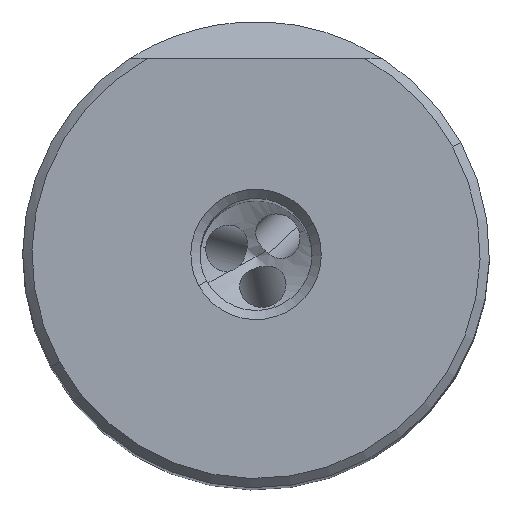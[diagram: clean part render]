
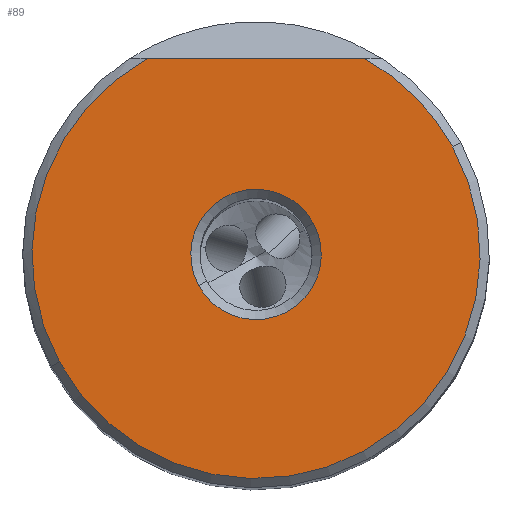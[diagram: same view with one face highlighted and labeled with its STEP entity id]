
A CAD part, top view. The second image highlights one B-rep face of the part: STEP entity #89.
In plain terms, the highlighted planar face has unit normal (0, 0, 1).
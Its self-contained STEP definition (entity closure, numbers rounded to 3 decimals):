
#35=AXIS2_PLACEMENT_3D('Plane Axis2P3D',#32,#33,#34) ;
#39=AXIS2_PLACEMENT_3D('Circle Axis2P3D',#37,#38,$) ;
#48=AXIS2_PLACEMENT_3D('Circle Axis2P3D',#46,#47,$) ;
#55=AXIS2_PLACEMENT_3D('Circle Axis2P3D',#53,#54,$) ;
#73=AXIS2_PLACEMENT_3D('Circle Axis2P3D',#71,#72,$) ;
#82=AXIS2_PLACEMENT_3D('Circle Axis2P3D',#80,#81,$) ;
#32=CARTESIAN_POINT('Axis2P3D Location',(-12.005,0.,0.)) ;
#37=CARTESIAN_POINT('Axis2P3D Location',(0.,0.,0.)) ;
#41=CARTESIAN_POINT('Vertex',(-5.82,10.5,0.)) ;
#43=CARTESIAN_POINT('Vertex',(-10.535,-5.756,0.)) ;
#46=CARTESIAN_POINT('Axis2P3D Location',(0.,0.,0.)) ;
#50=CARTESIAN_POINT('Vertex',(10.535,5.756,0.)) ;
#53=CARTESIAN_POINT('Axis2P3D Location',(0.,0.,0.)) ;
#57=CARTESIAN_POINT('Vertex',(5.82,10.5,0.)) ;
#60=CARTESIAN_POINT('Line Origine',(0.,10.5,0.)) ;
#71=CARTESIAN_POINT('Axis2P3D Location',(0.,0.,0.)) ;
#75=CARTESIAN_POINT('Vertex',(-3.067,-1.676,0.)) ;
#77=CARTESIAN_POINT('Vertex',(3.067,1.676,0.)) ;
#80=CARTESIAN_POINT('Axis2P3D Location',(0.,0.,0.)) ;
#33=DIRECTION('Axis2P3D Direction',(0.,0.,1.)) ;
#34=DIRECTION('Axis2P3D XDirection',(1.,0.,0.)) ;
#38=DIRECTION('Axis2P3D Direction',(0.,0.,1.)) ;
#47=DIRECTION('Axis2P3D Direction',(0.,0.,1.)) ;
#54=DIRECTION('Axis2P3D Direction',(0.,0.,1.)) ;
#61=DIRECTION('Vector Direction',(1.,0.,0.)) ;
#72=DIRECTION('Axis2P3D Direction',(0.,0.,1.)) ;
#81=DIRECTION('Axis2P3D Direction',(0.,0.,1.)) ;
#62=VECTOR('Line Direction',#61,1.) ;
#66=ORIENTED_EDGE('',*,*,#45,.T.) ;
#67=ORIENTED_EDGE('',*,*,#52,.T.) ;
#68=ORIENTED_EDGE('',*,*,#59,.T.) ;
#69=ORIENTED_EDGE('',*,*,#64,.F.) ;
#86=ORIENTED_EDGE('',*,*,#79,.F.) ;
#87=ORIENTED_EDGE('',*,*,#84,.F.) ;
#88=FACE_BOUND('',#85,.T.) ;
#89=ADVANCED_FACE('NO_CUT',(#70,#88),#36,.T.) ;
#40=CIRCLE('generated circle',#39,12.005) ;
#49=CIRCLE('generated circle',#48,12.005) ;
#56=CIRCLE('generated circle',#55,12.005) ;
#74=CIRCLE('generated circle',#73,3.495) ;
#83=CIRCLE('generated circle',#82,3.495) ;
#45=EDGE_CURVE('',#42,#44,#40,.T.) ;
#52=EDGE_CURVE('',#44,#51,#49,.T.) ;
#59=EDGE_CURVE('',#51,#58,#56,.T.) ;
#64=EDGE_CURVE('',#42,#58,#63,.T.) ;
#79=EDGE_CURVE('',#76,#78,#74,.T.) ;
#84=EDGE_CURVE('',#78,#76,#83,.T.) ;
#65=EDGE_LOOP('',(#66,#67,#68,#69)) ;
#85=EDGE_LOOP('',(#86,#87)) ;
#70=FACE_OUTER_BOUND('',#65,.T.) ;
#63=LINE('Line',#60,#62) ;
#36=PLANE('',#35) ;
#42=VERTEX_POINT('',#41) ;
#44=VERTEX_POINT('',#43) ;
#51=VERTEX_POINT('',#50) ;
#58=VERTEX_POINT('',#57) ;
#76=VERTEX_POINT('',#75) ;
#78=VERTEX_POINT('',#77) ;
